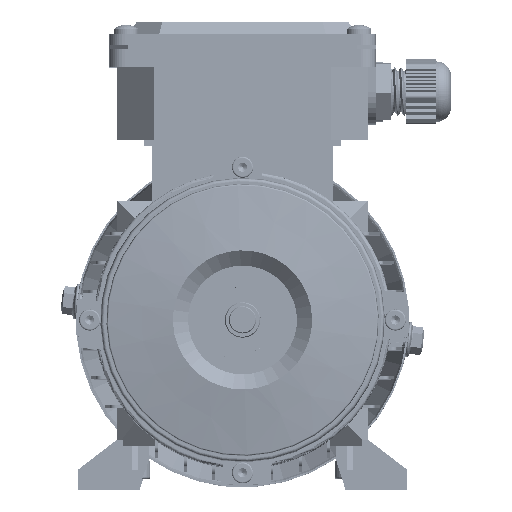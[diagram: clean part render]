
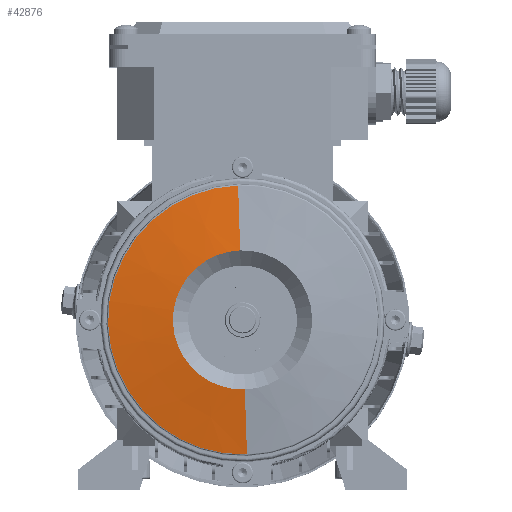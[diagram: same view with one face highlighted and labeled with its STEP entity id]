
A CAD part, top view. The second image highlights one B-rep face of the part: STEP entity #42876.
In plain terms, the highlighted conical face has half-angle 82.182 degrees and reference radius 23 mm.
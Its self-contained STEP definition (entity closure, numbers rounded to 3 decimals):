
#6517 = VERTEX_POINT ( 'NONE', #125443 ) ;
#6598 = CARTESIAN_POINT ( 'NONE',  ( -23., 0., 7. ) ) ;
#6808 = AXIS2_PLACEMENT_3D ( 'NONE', #124881, #66946, #8906 ) ;
#8906 = DIRECTION ( 'NONE',  ( 1., 0., 0. ) ) ;
#9282 = DIRECTION ( 'NONE',  ( 0., 0., -1. ) ) ;
#9426 = AXIS2_PLACEMENT_3D ( 'NONE', #86680, #28591, #96406 ) ;
#16370 = DIRECTION ( 'NONE',  ( -0.991, 0., -0.136 ) ) ;
#17413 = ORIENTED_EDGE ( 'NONE', *, *, #96542, .T. ) ;
#19051 = DIRECTION ( 'NONE',  ( -1., 0., 0. ) ) ;
#21852 = CONICAL_SURFACE ( 'NONE', #91193, 23., 1.434 ) ;
#22792 = ORIENTED_EDGE ( 'NONE', *, *, #122546, .F. ) ;
#25530 = CARTESIAN_POINT ( 'NONE',  ( 44.434, 0., 4.057 ) ) ;
#28591 = DIRECTION ( 'NONE',  ( 0., 0., 1. ) ) ;
#28778 = CARTESIAN_POINT ( 'NONE',  ( 0., 0., 7. ) ) ;
#37409 = LINE ( 'NONE', #53695, #111668 ) ;
#37492 = LINE ( 'NONE', #6598, #40559 ) ;
#40559 = VECTOR ( 'NONE', #16370, 1000. ) ;
#42876 = ADVANCED_FACE ( 'NONE', ( #124817 ), #21852, .T. ) ;
#53695 = CARTESIAN_POINT ( 'NONE',  ( 23., 0., 7. ) ) ;
#66946 = DIRECTION ( 'NONE',  ( 0., 0., 1. ) ) ;
#73172 = DIRECTION ( 'NONE',  ( 0.991, 0., -0.136 ) ) ;
#73788 = EDGE_LOOP ( 'NONE', ( #22792, #114475, #17413, #75319 ) ) ;
#74065 = VERTEX_POINT ( 'NONE', #25530 ) ;
#74380 = VERTEX_POINT ( 'NONE', #84859 ) ;
#75319 = ORIENTED_EDGE ( 'NONE', *, *, #80047, .T. ) ;
#80047 = EDGE_CURVE ( 'NONE', #74380, #74065, #83564, .T. ) ;
#82069 = EDGE_CURVE ( 'NONE', #6517, #120765, #120919, .T. ) ;
#83564 = CIRCLE ( 'NONE', #6808, 44.434 ) ;
#84859 = CARTESIAN_POINT ( 'NONE',  ( -44.434, 0., 4.057 ) ) ;
#86680 = CARTESIAN_POINT ( 'NONE',  ( 0., 0., 7. ) ) ;
#91193 = AXIS2_PLACEMENT_3D ( 'NONE', #28778, #9282, #19051 ) ;
#96406 = DIRECTION ( 'NONE',  ( 1., 0., 0. ) ) ;
#96542 = EDGE_CURVE ( 'NONE', #6517, #74380, #37492, .T. ) ;
#111668 = VECTOR ( 'NONE', #73172, 1000. ) ;
#114475 = ORIENTED_EDGE ( 'NONE', *, *, #82069, .F. ) ;
#120765 = VERTEX_POINT ( 'NONE', #121528 ) ;
#120919 = CIRCLE ( 'NONE', #9426, 23. ) ;
#121528 = CARTESIAN_POINT ( 'NONE',  ( 23., 0., 7. ) ) ;
#122546 = EDGE_CURVE ( 'NONE', #120765, #74065, #37409, .T. ) ;
#124817 = FACE_OUTER_BOUND ( 'NONE', #73788, .T. ) ;
#124881 = CARTESIAN_POINT ( 'NONE',  ( 0., 0., 4.057 ) ) ;
#125443 = CARTESIAN_POINT ( 'NONE',  ( -23., 0., 7. ) ) ;
